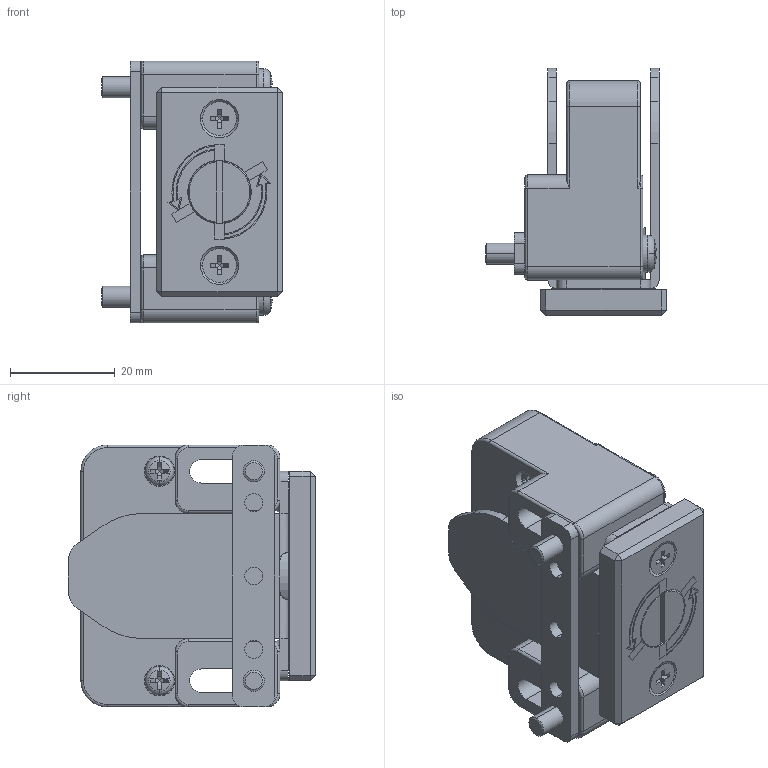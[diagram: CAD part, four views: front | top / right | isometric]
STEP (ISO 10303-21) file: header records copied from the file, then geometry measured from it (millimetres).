
FILE_DESCRIPTION(('Creo Elements/Direct Modeling STEP Export'),'2;1');
FILE_NAME('DL-1Z_20140908.stp','2014-09-09T 9:35:35',(''),(''),'Creo Elements/Direct Modeling STEP processor for AP214 (Solid Model)','Creo Elements/Direct Modeling 18.1B 29-Sep-2012 (C) Parametric Technology GmbH','');
FILE_SCHEMA(('AUTOMOTIVE_DESIGN { 1 0 10303 214 1 1 1 1 }'));
Length unit declared in the file: millimetre
Products named in the file (11): 皿ビス2; 皿ビス1; 皿ビス　M3X10; H05-0046-CC402_DL1Z_取付金具; ねじ2; ねじ1; 座付ねじ　M4X30; DL-1Z_フレームＢ_19901107; DL-1Z_ガイド_19901105; DL-1Z_ホルダー_19901107; H05-0046-CE902_DL-1Z
Assembly tree (10 placements, depth 3):
  H05-0046-CE902_DL-1Z
    DL-1Z_ホルダー_19901107
    DL-1Z_ガイド_19901105
    DL-1Z_フレームＢ_19901107
    座付ねじ　M4X30
      ねじ1
      ねじ2
    H05-0046-CC402_DL1Z_取付金具
    皿ビス　M3X10
      皿ビス1
      皿ビス2
Bounding box: 34.5 x 47.22 x 50 mm (x, y, z)
Volume: 35830.5 mm3; surface area: 20591.1 mm2
Topology: 8 solids, 8 shells, 485 faces, 1243 edges, 798 vertices
Faces by surface type: plane 264, cylinder 139, cone 42, torus 30, sphere 8, revolution 2
Entity records: 15115 total; most frequent: CARTESIAN_POINT 2787, ORIENTED_EDGE 2486, DIRECTION 2330, EDGE_CURVE 1243, AXIS2_PLACEMENT_3D 800, VERTEX_POINT 798, VECTOR 728, LINE 728
